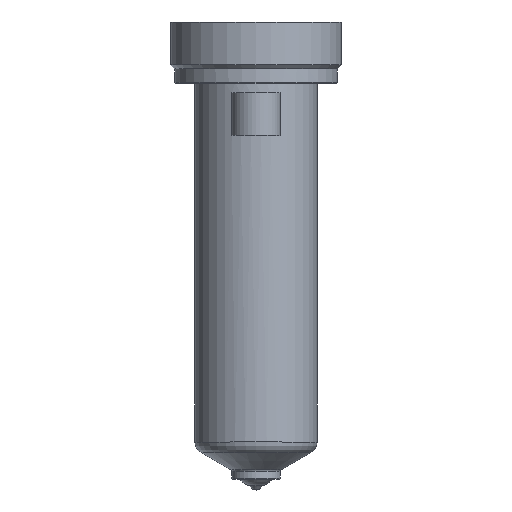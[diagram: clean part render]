
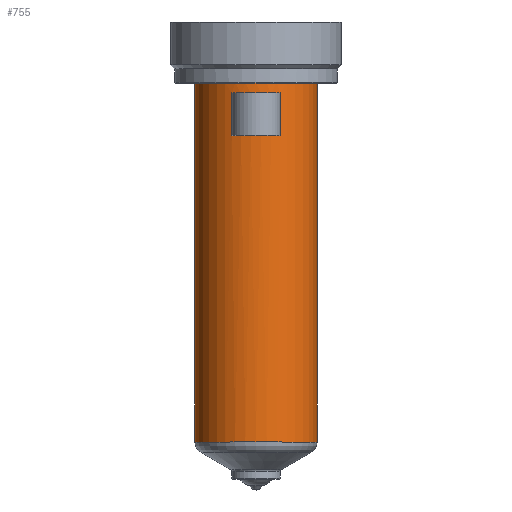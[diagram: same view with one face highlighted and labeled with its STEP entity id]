
A CAD part, top view. The second image highlights one B-rep face of the part: STEP entity #755.
In plain terms, the highlighted cylindrical face has radius 15 mm (diameter 30 mm), a partial arc.
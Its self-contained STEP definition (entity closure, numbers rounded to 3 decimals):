
#161=DIRECTION('',(0.,-1.,0.));
#162=VECTOR('',#161,88.226);
#163=CARTESIAN_POINT('',(15.,0.,0.));
#164=LINE('',#163,#162);
#165=CARTESIAN_POINT('',(0.,-88.226,0.));
#166=DIRECTION('',(0.,1.,0.));
#167=DIRECTION('',(-1.,0.,0.));
#168=AXIS2_PLACEMENT_3D('',#165,#166,#167);
#170=DIRECTION('',(0.,1.,0.));
#171=VECTOR('',#170,88.226);
#172=CARTESIAN_POINT('',(-15.,-88.226,0.));
#173=LINE('',#172,#171);
#174=CARTESIAN_POINT('',(0.,0.,0.));
#175=DIRECTION('',(0.,1.,0.));
#176=DIRECTION('',(-1.,0.,0.));
#177=AXIS2_PLACEMENT_3D('',#174,#175,#176);
#341=DIRECTION('',(0.,-1.,0.));
#342=VECTOR('',#341,10.5);
#343=CARTESIAN_POINT('',(-6.,-2.5,13.748));
#344=LINE('',#343,#342);
#353=CARTESIAN_POINT('',(0.,-13.,0.));
#354=DIRECTION('',(0.,1.,0.));
#355=DIRECTION('',(-0.4,0.,0.917));
#356=AXIS2_PLACEMENT_3D('',#353,#354,#355);
#367=DIRECTION('',(0.,-1.,0.));
#368=VECTOR('',#367,10.5);
#369=CARTESIAN_POINT('',(6.,-2.5,13.748));
#370=LINE('',#369,#368);
#388=CARTESIAN_POINT('',(0.,-2.5,0.));
#389=DIRECTION('',(0.,-1.,0.));
#390=DIRECTION('',(0.4,0.,0.917));
#391=AXIS2_PLACEMENT_3D('',#388,#389,#390);
#476=CARTESIAN_POINT('',(-15.,0.,0.));
#477=CARTESIAN_POINT('',(15.,0.,0.));
#478=VERTEX_POINT('',#476);
#479=VERTEX_POINT('',#477);
#488=CARTESIAN_POINT('',(6.,-2.5,13.748));
#489=VERTEX_POINT('',#488);
#490=CARTESIAN_POINT('',(-6.,-2.5,13.748));
#491=VERTEX_POINT('',#490);
#500=CARTESIAN_POINT('',(15.,-88.226,0.));
#501=VERTEX_POINT('',#500);
#510=CARTESIAN_POINT('',(-15.,-88.226,0.));
#511=VERTEX_POINT('',#510);
#512=CARTESIAN_POINT('',(6.,-13.,13.748));
#513=VERTEX_POINT('',#512);
#514=CARTESIAN_POINT('',(-6.,-13.,13.748));
#515=VERTEX_POINT('',#514);
#733=CARTESIAN_POINT('',(0.,16.4,0.));
#734=DIRECTION('',(0.,-1.,0.));
#735=DIRECTION('',(-1.,0.,0.));
#736=AXIS2_PLACEMENT_3D('',#733,#734,#735);
#737=CYLINDRICAL_SURFACE('',#736,15.);
#738=ORIENTED_EDGE('',*,*,#727,.T.);
#740=ORIENTED_EDGE('',*,*,#739,.F.);
#741=ORIENTED_EDGE('',*,*,#723,.T.);
#742=ORIENTED_EDGE('',*,*,#713,.T.);
#743=EDGE_LOOP('',(#738,#740,#741,#742));
#744=FACE_OUTER_BOUND('',#743,.F.);
#746=ORIENTED_EDGE('',*,*,#745,.T.);
#748=ORIENTED_EDGE('',*,*,#747,.T.);
#750=ORIENTED_EDGE('',*,*,#749,.F.);
#752=ORIENTED_EDGE('',*,*,#751,.T.);
#753=EDGE_LOOP('',(#746,#748,#750,#752));
#754=FACE_BOUND('',#753,.F.);
#755=ADVANCED_FACE('',(#744,#754),#737,.T.);
#169=CIRCLE('',#168,15.);
#178=CIRCLE('',#177,15.);
#357=CIRCLE('',#356,15.);
#392=CIRCLE('',#391,15.);
#713=EDGE_CURVE('',#478,#479,#178,.T.);
#723=EDGE_CURVE('',#511,#478,#173,.T.);
#727=EDGE_CURVE('',#479,#501,#164,.T.);
#739=EDGE_CURVE('',#511,#501,#169,.T.);
#745=EDGE_CURVE('',#491,#515,#344,.T.);
#747=EDGE_CURVE('',#515,#513,#357,.T.);
#749=EDGE_CURVE('',#489,#513,#370,.T.);
#751=EDGE_CURVE('',#489,#491,#392,.T.);
